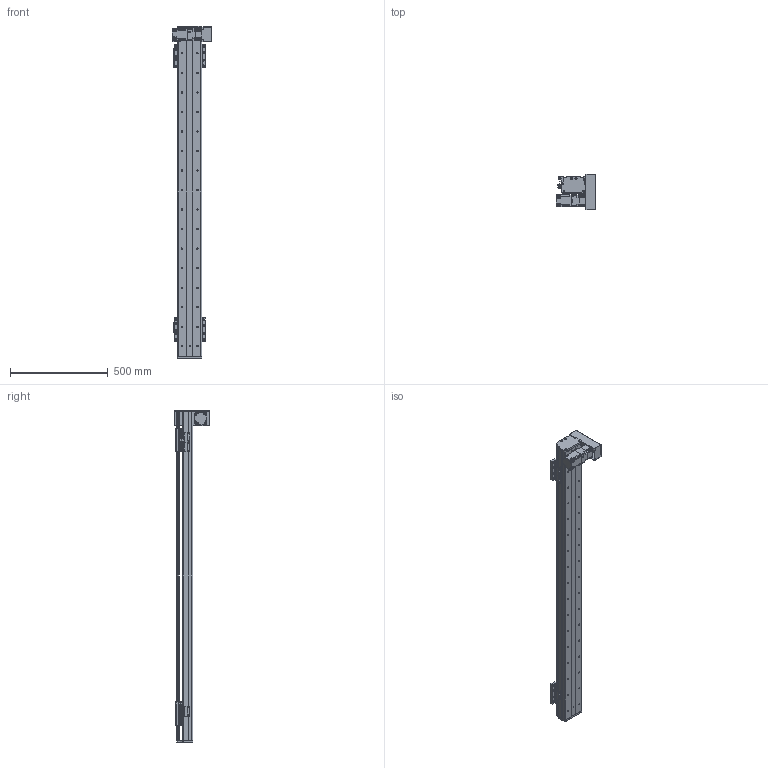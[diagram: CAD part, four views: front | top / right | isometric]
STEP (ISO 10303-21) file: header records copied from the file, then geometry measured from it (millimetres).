
FILE_DESCRIPTION(/* description */ (''),/* implementation_level */ '2;1');
FILE_NAME(/* name */ 'C:\Users\PC\Desktop\3D도면\STEP\새 폴더\DSB125-DR2G-W1400-L.stp',/* time_stamp */ '2018-06-21T15:00:08+09:00',/* author */ ('PC'),/* organization */ (''),/* preprocessor_version */ 'ST-DEVELOPER v16.5',/* originating_system */ 'Autodesk Inventor 2017',/* authorisation */ '');
FILE_SCHEMA (('AUTOMOTIVE_DESIGN { 1 0 10303 214 3 1 1 }'));
Length unit declared in the file: millimetre
Products named in the file (12): DSB125-DL2G-W1400-R_MIR; DSB125-BASE_MIR; DSB125-FRONT COVER_MIR; DSB125-REAR COVER_MIR; DSB125-UP COVER_MIR; hg-kr23__MIR; ab0601-p0401200402_MIR; 13-BELT COVER_MIR; DSR125-SENSOR DOG_MIR; pm-y65_step_MIR; SENSOR BRACKET(EE-SX674A)_MIR; DSB125-TABLE(MSB15S)_MIR
Assembly tree (16 placements, depth 2):
  DSB125-DL2G-W1400-R_MIR
    DSB125-BASE_MIR
    DSB125-FRONT COVER_MIR
    DSB125-REAR COVER_MIR
    DSB125-UP COVER_MIR
    hg-kr23__MIR
    ab0601-p0401200402_MIR
    13-BELT COVER_MIR
    DSR125-SENSOR DOG_MIR
    pm-y65_step_MIR  x3
    SENSOR BRACKET(EE-SX674A)_MIR  x3
    DSB125-TABLE(MSB15S)_MIR  x2
Bounding box: 202.1 x 182 x 1700 mm (x, y, z)
Volume: 5941662 mm3; surface area: 1709256.9 mm2
Topology: 17 solids, 17 shells, 1679 faces, 4550 edges, 2996 vertices
Faces by surface type: plane 903, cylinder 640, cone 124, sphere 8, torus 4
Full cylindrical faces by diameter (mm): 2.459 x20, 3.242 x16, 3.5 x6, 4 x1, 4.134 x16, 4.2 x4, 4.3 x1, 4.5 x50, 4.917 x20, 5 x22, 5.3 x1, 5.5 x4, 5.6 x8, 5.8 x4, 5.9 x8, 6 x4, 6.6 x22, 6.647 x34, 7.5 x32, 8.5 x8, 8.7 x1, 11 x22, 14 x1, 16 x2, 17 x1, 20 x1, 47 x1, 50 x3
Entity records: 36389 total; most frequent: CARTESIAN_POINT 6543, DIRECTION 6186, ORIENTED_EDGE 5514, EDGE_CURVE 2757, AXIS2_PLACEMENT_3D 2281, VERTEX_POINT 1966, EDGE_LOOP 1709, LINE 1624
